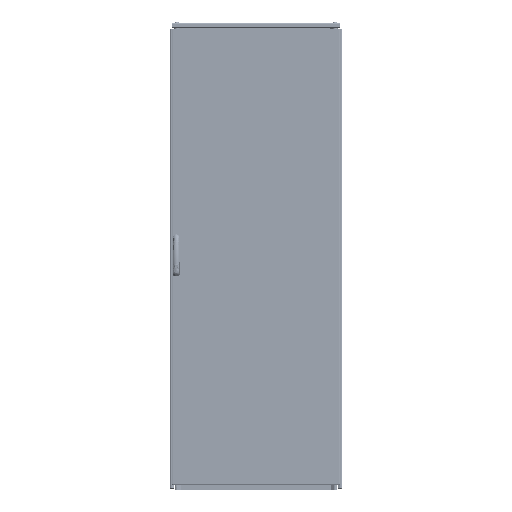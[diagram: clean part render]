
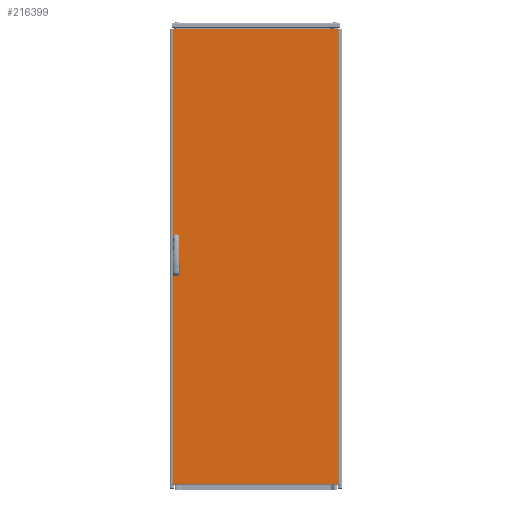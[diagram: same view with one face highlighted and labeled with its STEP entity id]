
A CAD part, top view. The second image highlights one B-rep face of the part: STEP entity #216399.
In plain terms, the highlighted planar face has unit normal (0, 0, 1).
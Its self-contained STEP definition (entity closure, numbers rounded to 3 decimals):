
#1256 = ORIENTED_EDGE ( 'NONE', *, *, #122550, .F. ) ;
#14319 = CARTESIAN_POINT ( 'NONE',  ( 19.2, 1047.75, 19. ) ) ;
#17018 = CARTESIAN_POINT ( 'NONE',  ( 9.7, 1112.25, 19. ) ) ;
#21965 = CARTESIAN_POINT ( 'NONE',  ( 0., 2157., 19. ) ) ;
#23484 = EDGE_CURVE ( 'NONE', #304763, #90487, #331841, .T. ) ;
#24723 = EDGE_CURVE ( 'NONE', #278225, #181631, #288635, .T. ) ;
#27037 = LINE ( 'NONE', #167703, #350439 ) ;
#32653 = VECTOR ( 'NONE', #312444, 1000. ) ;
#37281 = DIRECTION ( 'NONE',  ( 1., 0., 0. ) ) ;
#38561 = CARTESIAN_POINT ( 'NONE',  ( 0., 2160., 19. ) ) ;
#39466 = CIRCLE ( 'NONE', #228484, 9.5 ) ;
#41215 = EDGE_CURVE ( 'NONE', #84676, #60086, #195533, .T. ) ;
#49634 = VECTOR ( 'NONE', #200097, 1000. ) ;
#54004 = EDGE_CURVE ( 'NONE', #60270, #358068, #39466, .T. ) ;
#56543 = ORIENTED_EDGE ( 'NONE', *, *, #228624, .F. ) ;
#57931 = AXIS2_PLACEMENT_3D ( 'NONE', #235365, #91051, #268645 ) ;
#60086 = VERTEX_POINT ( 'NONE', #259707 ) ;
#60270 = VERTEX_POINT ( 'NONE', #17018 ) ;
#61201 = DIRECTION ( 'NONE',  ( 0., 0., 1. ) ) ;
#62471 = EDGE_CURVE ( 'NONE', #213743, #303214, #27037, .T. ) ;
#66381 = FACE_OUTER_BOUND ( 'NONE', #137339, .T. ) ;
#73287 = CARTESIAN_POINT ( 'NONE',  ( 9.7, 999.75, 19. ) ) ;
#77621 = ORIENTED_EDGE ( 'NONE', *, *, #54004, .F. ) ;
#84615 = EDGE_CURVE ( 'NONE', #90487, #84676, #138482, .T. ) ;
#84676 = VERTEX_POINT ( 'NONE', #136662 ) ;
#87205 = CARTESIAN_POINT ( 'NONE',  ( 28.7, 1160.25, 19. ) ) ;
#90487 = VERTEX_POINT ( 'NONE', #255540 ) ;
#91051 = DIRECTION ( 'NONE',  ( 0., 0., 1. ) ) ;
#105622 = VECTOR ( 'NONE', #322721, 1000. ) ;
#111728 = VECTOR ( 'NONE', #292699, 1000. ) ;
#113407 = AXIS2_PLACEMENT_3D ( 'NONE', #38561, #236650, #321802 ) ;
#118531 = DIRECTION ( 'NONE',  ( 1., 0., 0. ) ) ;
#119219 = ORIENTED_EDGE ( 'NONE', *, *, #272954, .T. ) ;
#119347 = ORIENTED_EDGE ( 'NONE', *, *, #62471, .F. ) ;
#122550 = EDGE_CURVE ( 'NONE', #181631, #60270, #348218, .T. ) ;
#122781 = ORIENTED_EDGE ( 'NONE', *, *, #366493, .F. ) ;
#127198 = DIRECTION ( 'NONE',  ( 0., 0., 1. ) ) ;
#135578 = CARTESIAN_POINT ( 'NONE',  ( 9.7, 1160.25, 19. ) ) ;
#136662 = CARTESIAN_POINT ( 'NONE',  ( 3., 2157., 19. ) ) ;
#137339 = EDGE_LOOP ( 'NONE', ( #181873, #269048, #309425, #119219 ) ) ;
#138482 = LINE ( 'NONE', #21965, #32653 ) ;
#140064 = VECTOR ( 'NONE', #272670, 1000. ) ;
#141761 = DIRECTION ( 'NONE',  ( 0., -1., 0. ) ) ;
#150176 = CARTESIAN_POINT ( 'NONE',  ( 19.2, 999.75, 19. ) ) ;
#150702 = AXIS2_PLACEMENT_3D ( 'NONE', #14319, #127198, #353064 ) ;
#158951 = CARTESIAN_POINT ( 'NONE',  ( 28.7, 1160.25, 19. ) ) ;
#159703 = CARTESIAN_POINT ( 'NONE',  ( 792., 2160., 19. ) ) ;
#164080 = CARTESIAN_POINT ( 'NONE',  ( 3., 2160., 19. ) ) ;
#166398 = EDGE_LOOP ( 'NONE', ( #119347, #211888, #122781, #56543 ) ) ;
#167703 = CARTESIAN_POINT ( 'NONE',  ( 9.7, 1047.75, 19. ) ) ;
#179243 = PLANE ( 'NONE',  #113407 ) ;
#181631 = VERTEX_POINT ( 'NONE', #135578 ) ;
#181873 = ORIENTED_EDGE ( 'NONE', *, *, #23484, .T. ) ;
#182134 = LINE ( 'NONE', #304232, #201815 ) ;
#195533 = LINE ( 'NONE', #164080, #196797 ) ;
#196797 = VECTOR ( 'NONE', #141761, 1000. ) ;
#196833 = CIRCLE ( 'NONE', #238301, 9.5 ) ;
#200047 = CARTESIAN_POINT ( 'NONE',  ( 19.2, 1112.25, 19. ) ) ;
#200097 = DIRECTION ( 'NONE',  ( 0., 1., 0. ) ) ;
#201815 = VECTOR ( 'NONE', #309737, 1000. ) ;
#203914 = DIRECTION ( 'NONE',  ( 0., 0., 1. ) ) ;
#211888 = ORIENTED_EDGE ( 'NONE', *, *, #214574, .F. ) ;
#213743 = VERTEX_POINT ( 'NONE', #328296 ) ;
#214461 = VERTEX_POINT ( 'NONE', #340335 ) ;
#214574 = EDGE_CURVE ( 'NONE', #214461, #213743, #310393, .T. ) ;
#216399 = ADVANCED_FACE ( 'NONE', ( #345924, #319991, #66381 ), #179243, .F. ) ;
#228484 = AXIS2_PLACEMENT_3D ( 'NONE', #200047, #61201, #118531 ) ;
#228624 = EDGE_CURVE ( 'NONE', #303214, #307896, #196833, .T. ) ;
#235305 = CARTESIAN_POINT ( 'NONE',  ( 9.7, 1160.25, 19. ) ) ;
#235365 = CARTESIAN_POINT ( 'NONE',  ( 19.2, 1160.25, 19. ) ) ;
#236650 = DIRECTION ( 'NONE',  ( 0., 0., -1. ) ) ;
#238301 = AXIS2_PLACEMENT_3D ( 'NONE', #150176, #203914, #37281 ) ;
#239408 = CARTESIAN_POINT ( 'NONE',  ( 28.7, 1047.75, 19. ) ) ;
#249828 = CARTESIAN_POINT ( 'NONE',  ( 28.7, 1112.25, 19. ) ) ;
#255540 = CARTESIAN_POINT ( 'NONE',  ( 792., 2157., 19. ) ) ;
#255713 = LINE ( 'NONE', #87205, #49634 ) ;
#259707 = CARTESIAN_POINT ( 'NONE',  ( 3., 3., 19. ) ) ;
#266666 = ORIENTED_EDGE ( 'NONE', *, *, #336136, .F. ) ;
#268645 = DIRECTION ( 'NONE',  ( 1., 0., 0. ) ) ;
#269048 = ORIENTED_EDGE ( 'NONE', *, *, #84615, .T. ) ;
#270081 = ORIENTED_EDGE ( 'NONE', *, *, #24723, .F. ) ;
#272670 = DIRECTION ( 'NONE',  ( 0., 1., 0. ) ) ;
#272954 = EDGE_CURVE ( 'NONE', #60086, #304763, #182134, .T. ) ;
#277015 = DIRECTION ( 'NONE',  ( 0., -1., 0. ) ) ;
#278225 = VERTEX_POINT ( 'NONE', #158951 ) ;
#286339 = EDGE_LOOP ( 'NONE', ( #1256, #270081, #266666, #77621 ) ) ;
#288635 = CIRCLE ( 'NONE', #57931, 9.5 ) ;
#292699 = DIRECTION ( 'NONE',  ( 0., -1., 0. ) ) ;
#293140 = LINE ( 'NONE', #239408, #105622 ) ;
#303214 = VERTEX_POINT ( 'NONE', #73287 ) ;
#304232 = CARTESIAN_POINT ( 'NONE',  ( 0., 3., 19. ) ) ;
#304763 = VERTEX_POINT ( 'NONE', #326087 ) ;
#307896 = VERTEX_POINT ( 'NONE', #322803 ) ;
#309425 = ORIENTED_EDGE ( 'NONE', *, *, #41215, .T. ) ;
#309737 = DIRECTION ( 'NONE',  ( 1., 0., 0. ) ) ;
#310393 = CIRCLE ( 'NONE', #150702, 9.5 ) ;
#312444 = DIRECTION ( 'NONE',  ( -1., 0., 0. ) ) ;
#319991 = FACE_BOUND ( 'NONE', #286339, .T. ) ;
#321802 = DIRECTION ( 'NONE',  ( -1., 0., 0. ) ) ;
#322721 = DIRECTION ( 'NONE',  ( 0., 1., 0. ) ) ;
#322803 = CARTESIAN_POINT ( 'NONE',  ( 28.7, 999.75, 19. ) ) ;
#326087 = CARTESIAN_POINT ( 'NONE',  ( 792., 3., 19. ) ) ;
#328296 = CARTESIAN_POINT ( 'NONE',  ( 9.7, 1047.75, 19. ) ) ;
#331841 = LINE ( 'NONE', #159703, #140064 ) ;
#336136 = EDGE_CURVE ( 'NONE', #358068, #278225, #255713, .T. ) ;
#340335 = CARTESIAN_POINT ( 'NONE',  ( 28.7, 1047.75, 19. ) ) ;
#345924 = FACE_BOUND ( 'NONE', #166398, .T. ) ;
#348218 = LINE ( 'NONE', #235305, #111728 ) ;
#350439 = VECTOR ( 'NONE', #277015, 1000. ) ;
#353064 = DIRECTION ( 'NONE',  ( 1., 0., 0. ) ) ;
#358068 = VERTEX_POINT ( 'NONE', #249828 ) ;
#366493 = EDGE_CURVE ( 'NONE', #307896, #214461, #293140, .T. ) ;
